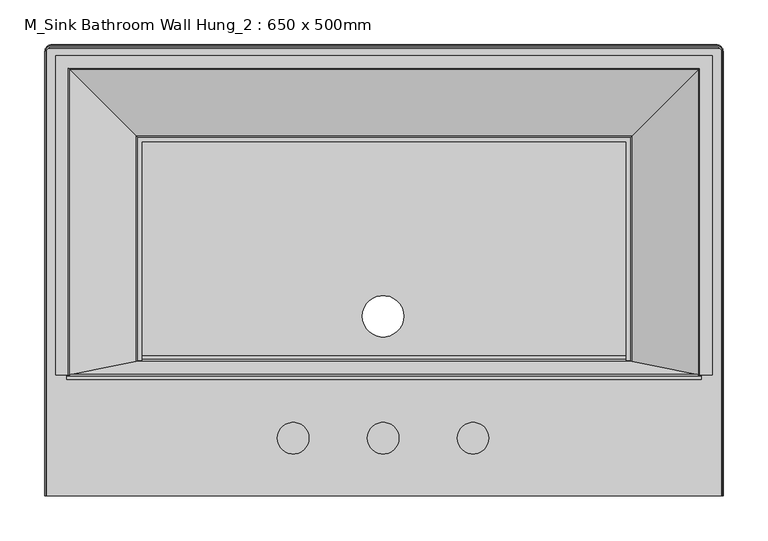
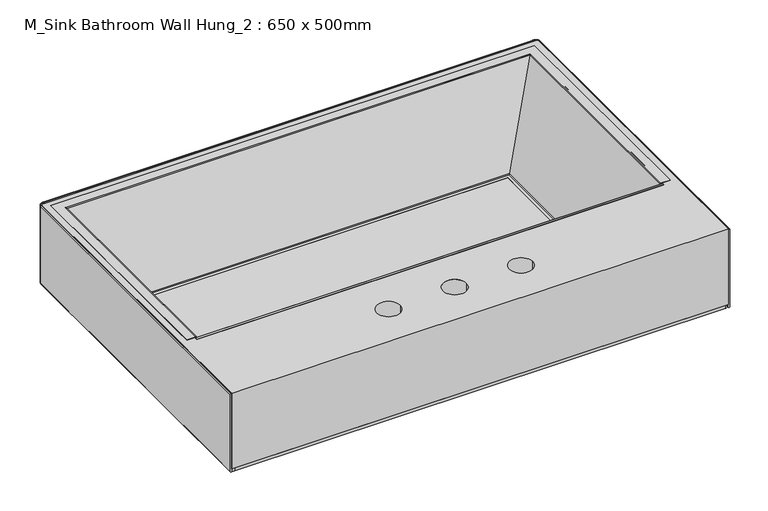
"""IFC4 building model written with IfcOpenShell, lengths in millimetres: flow terminal geometry, M_Sink Bathroom Wall Hung_2 : 650 x 500mm."""

from ifc_helpers import new_model, si_unit, point, frame, frame_2d, origin, place, context, project, spatial, polyline, circle_curve, ellipse_curve, trimmed, segment, composite_curve, outline, extrude, source, transform, mapped, element, save
from ifc_brep_helpers import plane_surface, cylinder_surface, revolved_surface, advanced_brep


def m_sink_bathroom_wall_hung_2_650_x_500mm_c8be8ad8(model_context):
    return source(origin(), model_context, "Body", "SolidModel", [
        advanced_brep(
        [(-238.3922513, 197.5, 870.0), (-238.3922513, 197.5, 865.0), (-226.1634933, 197.5, 865.0), (-151.1371736, 197.5, 744.95758), (-143.0390224, 197.5, 744.95758), (-143.0390224, 197.5, 750.0), (-147.2839473, 197.5, 750.0), (-148.9799451, 197.5, 750.9400041), (-222.8047502, 197.5, 869.0599959), (-224.5007481, 197.5, 870.0), (-238.3922513, 552.3610413, 870.0), (-238.3922513, 552.3610413, 865.0), (491.3298313, 552.3610413, 865.0), (491.3298313, 197.5, 865.0), (479.1010733, 197.5, 865.0), (479.1010733, 540.1322833, 865.0), (-226.1634933, 540.1322833, 865.0), (-151.1371736, 465.1059636, 744.95758), (404.0747536, 465.1059636, 744.95758), (404.0747536, 197.5, 744.95758), (395.9766024, 197.5, 744.95758), (395.9766024, 457.0078124, 744.95758), (-143.0390224, 457.0078124, 744.95758), (-143.0390224, 457.0078124, 750.0), (395.9766024, 457.0078124, 750.0), (395.9766024, 197.5, 750.0), (400.2215273, 197.5, 750.0), (400.2215273, 461.2527373, 750.0), (-147.2839473, 461.2527373, 750.0), (-148.9799451, 462.9487351, 750.9400041), (-222.8047502, 536.7735402, 869.0599959), (-224.5007481, 538.4695381, 870.0), (477.4383281, 538.4695381, 870.0), (477.4383281, 197.5, 870.0), (491.3298313, 197.5, 870.0), (491.3298313, 552.3610413, 870.0), (401.9175251, 462.9487351, 750.9400041), (475.7423302, 536.7735402, 869.0599959), (475.7423302, 197.5, 869.0599959), (401.9175251, 197.5, 750.9400041)],
        [
            (0, 1),
            (1, 2),
            (2, 3),
            (3, 4),
            (4, 5),
            (5, 6),
            (6, 7, circle_curve(frame((-147.2839473, 197.5, 752.0), z_axis=(0.0, 1.0, 0.0), x_axis=(-1.0, 0.0, 0.0)), 2.0)),
            (7, 8),
            (8, 9, circle_curve(frame((-224.5007481, 197.5, 868.0), z_axis=(0.0, -1.0, 0.0), x_axis=(-1.0, 0.0, 0.0)), 2.0)),
            (9, 0),
            (0, 10),
            (10, 11),
            (11, 1),
            (11, 12),
            (12, 13),
            (13, 14),
            (14, 15),
            (15, 16),
            (16, 2),
            (16, 17),
            (17, 3),
            (17, 18),
            (18, 19),
            (19, 20),
            (20, 21),
            (21, 22),
            (22, 4),
            (22, 23),
            (23, 5),
            (23, 24),
            (24, 25),
            (25, 26),
            (26, 27),
            (27, 28),
            (28, 6),
            (28, 29, ellipse_curve(frame((-147.2839473, 461.2527373, 752.0), z_axis=(0.7071067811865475, 0.7071067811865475, 0.0), x_axis=(-0.7071067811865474, 0.7071067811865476, 0.0)), 2.8284271, 2.0)),
            (29, 7),
            (29, 30),
            (30, 8),
            (30, 31, ellipse_curve(frame((-224.5007481, 538.4695381, 868.0), z_axis=(-0.7071067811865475, -0.7071067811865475, 0.0), x_axis=(0.7071067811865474, -0.7071067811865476, 0.0)), 2.8284271, 2.0)),
            (31, 9),
            (31, 32),
            (32, 33),
            (33, 34),
            (34, 35),
            (35, 10),
            (35, 12),
            (15, 18),
            (21, 24),
            (27, 36, ellipse_curve(frame((400.2215273, 461.2527373, 752.0), z_axis=(0.7071067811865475, -0.7071067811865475, 0.0), x_axis=(0.7071067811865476, 0.7071067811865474, 0.0)), 2.8284271, 2.0)),
            (36, 29),
            (36, 37),
            (37, 30),
            (37, 32, ellipse_curve(frame((477.4383281, 538.4695381, 868.0), z_axis=(-0.7071067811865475, 0.7071067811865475, 0.0), x_axis=(-0.7071067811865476, -0.7071067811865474, 0.0)), 2.8284271, 2.0)),
            (33, 38, circle_curve(frame((477.4383281, 197.5, 868.0), z_axis=(0.0, -1.0, 0.0), x_axis=(1.0, 0.0, 0.0)), 2.0)),
            (38, 39),
            (39, 26, circle_curve(frame((400.2215273, 197.5, 752.0), z_axis=(0.0, 1.0, 0.0), x_axis=(1.0, 0.0, 0.0)), 2.0)),
            (25, 20),
            (19, 14),
            (13, 34),
            (39, 36),
            (38, 37),
        ],
        [
            plane_surface(frame((-223.53121, 197.5, 750.0), z_axis=(0.0, -1.0, 0.0), x_axis=(0.0, 0.0, 1.0))),
            plane_surface(frame((-238.3922513, 197.5, 870.0), z_axis=(-1.0, 0.0, 0.0), x_axis=(0.0, 1.0, 0.0))),
            plane_surface(frame((-238.3922513, 197.5, 865.0), z_axis=(0.0, 0.0, -1.0), x_axis=(0.0, 1.0, 0.0))),
            plane_surface(frame((-226.1634933, 197.5, 865.0), z_axis=(-0.8479989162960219, 0.0, -0.5299979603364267), x_axis=(0.0, 1.0, 0.0))),
            plane_surface(frame((-151.1371736, 197.5, 744.95758), z_axis=(0.0, 0.0, -1.0), x_axis=(0.0, 1.0, 0.0))),
            plane_surface(frame((-143.0390224, 197.5, 744.95758), z_axis=(1.0, 0.0, 0.0), x_axis=(0.0, 1.0, 0.0))),
            plane_surface(frame((-143.0390224, 197.5, 750.0), z_axis=(0.0, 0.0, 1.0), x_axis=(0.0, 1.0, 0.0))),
            revolved_surface(polyline([(-149.2839473, 463.25273728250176, 752.0), (-149.2839473, 197.5, 752.0)]), (-147.2839473, 197.5, 752.0), (0.0, 1.0, 0.0)),
            plane_surface(frame((-148.9799451, 197.5, 750.9400041), z_axis=(0.8479989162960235, 0.0, 0.529997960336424), x_axis=(0.0, 1.0, 0.0))),
            cylinder_surface(frame((-224.5007481, 197.5, 868.0), z_axis=(0.0, -1.0, 0.0), x_axis=(-1.0, 0.0, 0.0)), 2.0),
            plane_surface(frame((-224.5007481, 197.5, 870.0), z_axis=(0.0, 0.0, 1.0), x_axis=(0.0, 1.0, 0.0))),
            plane_surface(frame((-238.3922513, 552.3610413, 870.0), z_axis=(0.0, 1.0, 0.0), x_axis=(1.0, 0.0, 0.0))),
            plane_surface(frame((-226.1634933, 540.1322833, 865.0), z_axis=(0.0, 0.8479989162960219, -0.5299979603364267), x_axis=(1.0, 0.0, 0.0))),
            plane_surface(frame((-143.0390224, 457.0078124, 744.95758), z_axis=(0.0, -1.0, 0.0), x_axis=(1.0, 0.0, 0.0))),
            revolved_surface(polyline([(402.2215272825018, 463.2527373, 752.0), (-149.2839472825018, 463.2527373, 752.0)]), (-223.53121, 461.2527373, 752.0), (1.0, 0.0, 0.0)),
            plane_surface(frame((-148.9799451, 462.9487351, 750.9400041), z_axis=(0.0, -0.8479989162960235, 0.529997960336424), x_axis=(1.0, 0.0, 0.0))),
            cylinder_surface(frame((-223.53121, 538.4695381, 868.0), z_axis=(-1.0, 0.0, 0.0), x_axis=(0.0, 1.0, 0.0)), 2.0),
            plane_surface(frame((476.46879, 197.5, 750.0), z_axis=(0.0, -1.0, 0.0), x_axis=(0.0, 0.0, 1.0))),
            plane_surface(frame((491.3298313, 552.3610413, 870.0), z_axis=(1.0, 0.0, 0.0), x_axis=(0.0, -1.0, 0.0))),
            plane_surface(frame((479.1010733, 540.1322833, 865.0), z_axis=(0.8479989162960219, 0.0, -0.5299979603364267), x_axis=(0.0, -1.0, 0.0))),
            plane_surface(frame((395.9766024, 457.0078124, 744.95758), z_axis=(-1.0, 0.0, 0.0), x_axis=(0.0, -1.0, 0.0))),
            revolved_surface(polyline([(402.2215273, 197.5, 752.0), (402.2215273, 463.2527372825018, 752.0)]), (400.2215273, 537.5, 752.0), (0.0, -1.0, 0.0)),
            plane_surface(frame((401.9175251, 462.9487351, 750.9400041), z_axis=(-0.8479989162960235, 0.0, 0.529997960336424), x_axis=(0.0, -1.0, 0.0))),
            cylinder_surface(frame((477.4383281, 537.5, 868.0), z_axis=(0.0, 1.0, 0.0), x_axis=(1.0, 0.0, 0.0)), 2.0),
        ],
        [
            (0, [[1, 2, 3, 4, 5, 6, 7, 8, 9, 10]]),
            (1, [[-1, 11, 12, 13]]),
            (2, [[-2, -13, 14, 15, 16, 17, 18, 19]]),
            (3, [[-3, -19, 20, 21]]),
            (4, [[-4, -21, 22, 23, 24, 25, 26, 27]]),
            (5, [[-5, -27, 28, 29]]),
            (6, [[-6, -29, 30, 31, 32, 33, 34, 35]]),
            (7, [[-7, -35, 36, 37]]),
            (8, [[-8, -37, 38, 39]]),
            (9, [[-9, -39, 40, 41]]),
            (10, [[-10, -41, 42, 43, 44, 45, 46, -11]]),
            (11, [[-12, -46, 47, -14]]),
            (12, [[-20, -18, 48, -22]]),
            (13, [[-28, -26, 49, -30]]),
            (14, [[-36, -34, 50, 51]]),
            (15, [[-38, -51, 52, 53]]),
            (16, [[-40, -53, 54, -42]]),
            (17, [[-44, 55, 56, 57, -32, 58, -24, 59, -16, 60]]),
            (18, [[-47, -45, -60, -15]]),
            (19, [[-48, -17, -59, -23]]),
            (20, [[-49, -25, -58, -31]]),
            (21, [[-50, -33, -57, 61]]),
            (22, [[-52, -61, -56, 62]]),
            (23, [[-54, -62, -55, -43]]),
        ],
    ),
        extrude(outline(composite_curve([segment(polyline([(197.6022771, 868.2507881), (212.327107, 751.7492119)]), True, "CONTINUOUS"), segment(trimmed(circle_curve(frame_2d((214.311321, 752.0)), 2.0), [point((212.327107, 751.7492119))], [point((214.311321, 750.0))], True, "CARTESIAN"), True, "CONTINUOUS"), segment(polyline([(214.311321, 750.0), (218.1855127, 750.0), (218.1855127, 744.95758), (208.1855127, 744.95758), (192.3811913, 870.0), (195.6180631, 870.0)]), True, "CONTINUOUS"), segment(trimmed(circle_curve(frame_2d((195.6180631, 868.0)), 2.0), [point((195.6180631, 870.0))], [point((197.6022771, 868.2507881))], False, "CARTESIAN"), True, "CONTINUOUS")], self_intersect=False)), frame((-226.1634933, 0.0, 0.0), z_axis=(1.0, 0.0, 0.0), x_axis=(0.0, 1.0, 0.0)), (0.0, 0.0, 1.0), 705.2645665),
        extrude(outline(composite_curve([segment(trimmed(circle_curve(frame_2d((498.46879, 557.5)), 3.0), [point((498.46879, 560.5))], [point((501.46879, 557.5))], False, "CARTESIAN"), True, "CONTINUOUS"), segment(polyline([(501.46879, 557.5), (501.46879, 62.5), (-248.53121, 62.5), (-248.53121, 557.5)]), True, "CONTINUOUS"), segment(trimmed(circle_curve(frame_2d((-245.53121, 557.5)), 3.0), [point((-248.53121, 557.5))], [point((-245.53121, 560.5))], False, "CARTESIAN"), True, "CONTINUOUS"), segment(polyline([(-245.53121, 560.5), (498.46879, 560.5)]), True, "CONTINUOUS")], self_intersect=False), holes=[composite_curve([segment(trimmed(circle_curve(frame_2d((25.51071, 126.860641)), 17.5), [point((8.01071, 126.860641))], [point((43.01071, 126.860641))], True, "CARTESIAN"), True, "CONTINUOUS"), segment(trimmed(circle_curve(frame_2d((25.51071, 126.860641)), 17.5), [point((43.01071, 126.860641))], [point((8.01071, 126.860641))], True, "CARTESIAN"), True, "CONTINUOUS")], self_intersect=False), composite_curve([segment(trimmed(circle_curve(frame_2d((125.51071, 126.860641)), 17.5), [point((108.01071, 126.860641))], [point((143.01071, 126.860641))], True, "CARTESIAN"), True, "CONTINUOUS"), segment(trimmed(circle_curve(frame_2d((125.51071, 126.860641)), 17.5), [point((143.01071, 126.860641))], [point((108.01071, 126.860641))], True, "CARTESIAN"), True, "CONTINUOUS")], self_intersect=False), composite_curve([segment(trimmed(circle_curve(frame_2d((225.51071, 126.860641)), 17.5), [point((243.01071, 126.860641))], [point((208.01071, 126.860641))], True, "CARTESIAN"), True, "CONTINUOUS"), segment(trimmed(circle_curve(frame_2d((225.51071, 126.860641)), 17.5), [point((208.01071, 126.860641))], [point((243.01071, 126.860641))], True, "CARTESIAN"), True, "CONTINUOUS")], self_intersect=False), polyline([(-226.1634933, 537.5), (-226.1634933, 192.5), (479.1010733, 192.5), (479.1010733, 537.5), (-226.1634933, 537.5)])]), frame((0.0, 0.0, 750.0), z_axis=(0.0, 0.0, 1.0), x_axis=(1.0, 0.0, 0.0)), (0.0, 0.0, 1.0), 120.0),
        advanced_brep(
        [(-249.53121, 62.5, 870.0), (-250.53121, 62.5, 869.0), (-250.53121, 62.5, 746.0), (-249.53121, 62.5, 745.0), (-248.53121, 62.5, 745.0), (-248.53121, 62.5, 870.0), (-249.53121, 557.5, 870.0), (-250.53121, 557.5, 869.0), (-250.53121, 557.5, 746.0), (-249.53121, 557.5, 745.0), (-243.53121, 563.5, 745.0), (496.46879, 563.5, 745.0), (502.46879, 557.5, 745.0), (502.46879, 62.5, 745.0), (501.46879, 62.5, 745.0), (501.46879, 557.5, 745.0), (496.46879, 562.5, 745.0), (-243.53121, 562.5, 745.0), (-248.53121, 557.5, 745.0), (-248.53121, 557.5, 870.0), (-243.53121, 562.5, 870.0), (496.46879, 562.5, 870.0), (501.46879, 557.5, 870.0), (501.46879, 62.5, 870.0), (502.46879, 62.5, 870.0), (502.46879, 557.5, 870.0), (496.46879, 563.5, 870.0), (-243.53121, 563.5, 870.0), (-243.53121, 564.5, 869.0), (-243.53121, 564.5, 746.0), (496.46879, 564.5, 869.0), (496.46879, 564.5, 746.0), (503.46879, 557.5, 869.0), (503.46879, 557.5, 746.0), (503.46879, 62.5, 746.0), (503.46879, 62.5, 869.0)],
        [
            (0, 1, circle_curve(frame((-249.53121, 62.5, 869.0), z_axis=(0.0, -1.0, 0.0), x_axis=(-1.0, 0.0, 0.0)), 1.0)),
            (1, 2),
            (2, 3, circle_curve(frame((-249.53121, 62.5, 746.0), z_axis=(0.0, -1.0, 0.0), x_axis=(-1.0, 0.0, 0.0)), 1.0)),
            (3, 4),
            (4, 5),
            (5, 0),
            (0, 6),
            (6, 7, circle_curve(frame((-249.53121, 557.5, 869.0), z_axis=(0.0, -1.0, 0.0), x_axis=(-1.0, 0.0, 0.0)), 1.0)),
            (7, 1),
            (7, 8),
            (8, 2),
            (8, 9, circle_curve(frame((-249.53121, 557.5, 746.0), z_axis=(0.0, -1.0, 0.0), x_axis=(-1.0, 0.0, 0.0)), 1.0)),
            (9, 3),
            (9, 10, circle_curve(frame((-243.53121, 557.5, 745.0), z_axis=(0.0, 0.0, -1.0), x_axis=(-1.0, 0.0, 0.0)), 6.0)),
            (10, 11),
            (11, 12, circle_curve(frame((496.46879, 557.5, 745.0), z_axis=(0.0, 0.0, -1.0), x_axis=(0.0, 1.0, 0.0)), 6.0)),
            (12, 13),
            (13, 14),
            (14, 15),
            (15, 16, circle_curve(frame((496.46879, 557.5, 745.0), z_axis=(0.0, 0.0, 1.0), x_axis=(0.0, 1.0, 0.0)), 5.0)),
            (16, 17),
            (17, 18, circle_curve(frame((-243.53121, 557.5, 745.0), z_axis=(0.0, 0.0, 1.0), x_axis=(-1.0, 0.0, 0.0)), 5.0)),
            (18, 4),
            (18, 19),
            (19, 5),
            (19, 20, circle_curve(frame((-243.53121, 557.5, 870.0), z_axis=(0.0, 0.0, -1.0), x_axis=(-1.0, 0.0, 0.0)), 5.0)),
            (20, 21),
            (21, 22, circle_curve(frame((496.46879, 557.5, 870.0), z_axis=(0.0, 0.0, -1.0), x_axis=(0.0, 1.0, 0.0)), 5.0)),
            (22, 23),
            (23, 24),
            (24, 25),
            (25, 26, circle_curve(frame((496.46879, 557.5, 870.0), z_axis=(0.0, 0.0, 1.0), x_axis=(0.0, 1.0, 0.0)), 6.0)),
            (26, 27),
            (27, 6, circle_curve(frame((-243.53121, 557.5, 870.0), z_axis=(0.0, 0.0, 1.0), x_axis=(-1.0, 0.0, 0.0)), 6.0)),
            (28, 7, circle_curve(frame((-243.53121, 557.5, 869.0), z_axis=(0.0, 0.0, 1.0), x_axis=(-1.0, 0.0, 0.0)), 7.0)),
            (27, 28, circle_curve(frame((-243.53121, 563.5, 869.0), z_axis=(-1.0, 0.0, 0.0), x_axis=(0.0, 1.0, 0.0)), 1.0)),
            (29, 8, circle_curve(frame((-243.53121, 557.5, 746.0), z_axis=(0.0, 0.0, 1.0), x_axis=(-1.0, 0.0, 0.0)), 7.0)),
            (28, 29),
            (29, 10, circle_curve(frame((-243.53121, 563.5, 746.0), z_axis=(-1.0, 0.0, 0.0), x_axis=(0.0, 1.0, 0.0)), 1.0)),
            (17, 20),
            (26, 30, circle_curve(frame((496.46879, 563.5, 869.0), z_axis=(-1.0, 0.0, 0.0), x_axis=(0.0, 1.0, 0.0)), 1.0)),
            (30, 28),
            (30, 31),
            (31, 29),
            (31, 11, circle_curve(frame((496.46879, 563.5, 746.0), z_axis=(-1.0, 0.0, 0.0), x_axis=(0.0, 1.0, 0.0)), 1.0)),
            (16, 21),
            (32, 30, circle_curve(frame((496.46879, 557.5, 869.0), z_axis=(0.0, 0.0, 1.0), x_axis=(0.0, 1.0, 0.0)), 7.0)),
            (25, 32, circle_curve(frame((502.46879, 557.5, 869.0), z_axis=(0.0, 1.0, 0.0), x_axis=(1.0, 0.0, 0.0)), 1.0)),
            (33, 31, circle_curve(frame((496.46879, 557.5, 746.0), z_axis=(0.0, 0.0, 1.0), x_axis=(0.0, 1.0, 0.0)), 7.0)),
            (32, 33),
            (33, 12, circle_curve(frame((502.46879, 557.5, 746.0), z_axis=(0.0, 1.0, 0.0), x_axis=(1.0, 0.0, 0.0)), 1.0)),
            (15, 22),
            (23, 14),
            (13, 34, circle_curve(frame((502.46879, 62.5, 746.0), z_axis=(0.0, -1.0, 0.0), x_axis=(1.0, 0.0, 0.0)), 1.0)),
            (34, 35),
            (35, 24, circle_curve(frame((502.46879, 62.5, 869.0), z_axis=(0.0, -1.0, 0.0), x_axis=(1.0, 0.0, 0.0)), 1.0)),
            (35, 32),
            (34, 33),
        ],
        [
            plane_surface(frame((-248.53121, 62.5, 750.0), z_axis=(0.0, -1.0, 0.0), x_axis=(0.0, 0.0, 1.0))),
            cylinder_surface(frame((-249.53121, 62.5, 869.0), z_axis=(0.0, -1.0, 0.0), x_axis=(-1.0, 0.0, 0.0)), 1.0),
            plane_surface(frame((-250.53121, 62.5, 869.0), z_axis=(-1.0, 0.0, 0.0), x_axis=(0.0, 1.0, 0.0))),
            cylinder_surface(frame((-249.53121, 62.5, 746.0), z_axis=(0.0, -1.0, 0.0), x_axis=(-1.0, 0.0, 0.0)), 1.0),
            plane_surface(frame((-249.53121, 62.5, 745.0), z_axis=(0.0, 0.0, -1.0), x_axis=(0.0, 1.0, 0.0))),
            plane_surface(frame((-248.53121, 62.5, 745.0), z_axis=(1.0, 0.0, 0.0), x_axis=(0.0, 1.0, 0.0))),
            plane_surface(frame((-248.53121, 62.5, 870.0), z_axis=(0.0, 0.0, 1.0), x_axis=(0.0, 1.0, 0.0))),
            revolved_surface(trimmed(ellipse_curve(frame((-249.53121, 557.5, 869.0), z_axis=(0.0, -1.0, 0.0), x_axis=(-1.0, 0.0, 0.0)), 1.0, 1.0), [point((-249.53121, 557.5, 870.0))], [point((-250.53121, 557.5, 869.0))], True, "CARTESIAN"), (-243.53121, 557.5, 750.0), (0.0, 0.0, -1.0)),
            cylinder_surface(frame((-243.53121, 557.5, 750.0), z_axis=(0.0, 0.0, -1.0), x_axis=(-1.0, 0.0, 0.0)), 7.0),
            revolved_surface(trimmed(ellipse_curve(frame((-249.53121, 557.5, 746.0), z_axis=(0.0, -1.0, 0.0), x_axis=(-1.0, 0.0, 0.0)), 1.0, 1.0), [point((-250.53121, 557.5, 746.0))], [point((-249.53121, 557.5, 745.0))], True, "CARTESIAN"), (-243.53121, 557.5, 750.0), (0.0, 0.0, -1.0)),
            revolved_surface(polyline([(-248.53121, 557.5, 745.0), (-248.53121, 557.5, 870.0)]), (-243.53121, 557.5, 750.0), (0.0, 0.0, -1.0)),
            cylinder_surface(frame((-243.53121, 563.5, 869.0), z_axis=(-1.0, 0.0, 0.0), x_axis=(0.0, 1.0, 0.0)), 1.0),
            plane_surface(frame((-243.53121, 564.5, 869.0), z_axis=(0.0, 1.0, 0.0), x_axis=(1.0, 0.0, 0.0))),
            cylinder_surface(frame((-243.53121, 563.5, 746.0), z_axis=(-1.0, 0.0, 0.0), x_axis=(0.0, 1.0, 0.0)), 1.0),
            plane_surface(frame((-243.53121, 562.5, 745.0), z_axis=(0.0, -1.0, 0.0), x_axis=(1.0, 0.0, 0.0))),
            revolved_surface(trimmed(ellipse_curve(frame((496.46879, 563.5, 869.0), z_axis=(-1.0, 0.0, 0.0), x_axis=(0.0, 1.0, 0.0)), 1.0, 1.0), [point((496.46879, 563.5, 870.0))], [point((496.46879, 564.5, 869.0))], True, "CARTESIAN"), (496.46879, 557.5, 750.0), (0.0, 0.0, -1.0)),
            cylinder_surface(frame((496.46879, 557.5, 750.0), z_axis=(0.0, 0.0, -1.0), x_axis=(0.0, 1.0, 0.0)), 7.0),
            revolved_surface(trimmed(ellipse_curve(frame((496.46879, 563.5, 746.0), z_axis=(-1.0, 0.0, 0.0), x_axis=(0.0, 1.0, 0.0)), 1.0, 1.0), [point((496.46879, 564.5, 746.0))], [point((496.46879, 563.5, 745.0))], True, "CARTESIAN"), (496.46879, 557.5, 750.0), (0.0, 0.0, -1.0)),
            revolved_surface(polyline([(496.46879, 562.5, 745.0), (496.46879, 562.5, 870.0)]), (496.46879, 557.5, 750.0), (0.0, 0.0, -1.0)),
            plane_surface(frame((501.46879, 62.5, 750.0), z_axis=(0.0, -1.0, 0.0), x_axis=(0.0, 0.0, 1.0))),
            cylinder_surface(frame((502.46879, 557.5, 869.0), z_axis=(0.0, 1.0, 0.0), x_axis=(1.0, 0.0, 0.0)), 1.0),
            plane_surface(frame((503.46879, 557.5, 869.0), z_axis=(1.0, 0.0, 0.0), x_axis=(0.0, -1.0, 0.0))),
            cylinder_surface(frame((502.46879, 557.5, 746.0), z_axis=(0.0, 1.0, 0.0), x_axis=(1.0, 0.0, 0.0)), 1.0),
            plane_surface(frame((501.46879, 557.5, 745.0), z_axis=(-1.0, 0.0, 0.0), x_axis=(0.0, -1.0, 0.0))),
        ],
        [
            (0, [[1, 2, 3, 4, 5, 6]]),
            (1, [[-1, 7, 8, 9]]),
            (2, [[-2, -9, 10, 11]]),
            (3, [[-3, -11, 12, 13]]),
            (4, [[-4, -13, 14, 15, 16, 17, 18, 19, 20, 21, 22, 23]]),
            (5, [[-5, -23, 24, 25]]),
            (6, [[-6, -25, 26, 27, 28, 29, 30, 31, 32, 33, 34, -7]]),
            (7, [[35, -8, -34, 36]]),
            (8, [[37, -10, -35, 38]]),
            (9, [[-14, -12, -37, 39]]),
            (10, [[-26, -24, -22, 40]]),
            (11, [[-36, -33, 41, 42]]),
            (12, [[-38, -42, 43, 44]]),
            (13, [[-39, -44, 45, -15]]),
            (14, [[-40, -21, 46, -27]]),
            (15, [[47, -41, -32, 48]]),
            (16, [[49, -43, -47, 50]]),
            (17, [[-16, -45, -49, 51]]),
            (18, [[-28, -46, -20, 52]]),
            (19, [[-30, 53, -18, 54, 55, 56]]),
            (20, [[-48, -31, -56, 57]]),
            (21, [[-50, -57, -55, 58]]),
            (22, [[-51, -58, -54, -17]]),
            (23, [[-52, -19, -53, -29]]),
        ],
    ),
        extrude(outline(composite_curve([segment(trimmed(circle_curve(frame_2d((-243.53121, 557.5)), 5.0), [point((-248.53121, 557.5))], [point((-243.53121, 562.5))], False, "CARTESIAN"), True, "CONTINUOUS"), segment(polyline([(-243.53121, 562.5), (496.46879, 562.5)]), True, "CONTINUOUS"), segment(trimmed(circle_curve(frame_2d((496.46879, 557.5)), 5.0), [point((496.46879, 562.5))], [point((501.46879, 557.5))], False, "CARTESIAN"), True, "CONTINUOUS"), segment(polyline([(501.46879, 557.5), (501.46879, 67.5)]), True, "CONTINUOUS"), segment(trimmed(circle_curve(frame_2d((496.46879, 67.5)), 5.0), [point((501.46879, 67.5))], [point((496.46879, 62.5))], False, "CARTESIAN"), True, "CONTINUOUS"), segment(polyline([(496.46879, 62.5), (-243.53121, 62.5)]), True, "CONTINUOUS"), segment(trimmed(circle_curve(frame_2d((-243.53121, 67.5)), 5.0), [point((-243.53121, 62.5))], [point((-248.53121, 67.5))], False, "CARTESIAN"), True, "CONTINUOUS"), segment(polyline([(-248.53121, 67.5), (-248.53121, 557.5)]), True, "CONTINUOUS")], self_intersect=False), holes=[composite_curve([segment(trimmed(circle_curve(frame_2d((125.5105, 262.5)), 23.0), [point((148.5105, 262.5))], [point((102.5105, 262.5))], True, "CARTESIAN"), True, "CONTINUOUS"), segment(trimmed(circle_curve(frame_2d((125.5105, 262.5)), 23.0), [point((102.5105, 262.5))], [point((148.5105, 262.5))], True, "CARTESIAN"), True, "CONTINUOUS")], self_intersect=False)]), frame((0.0, 0.0, 744.95758), z_axis=(0.0, 0.0, 1.0), x_axis=(1.0, 0.0, 0.0)), (0.0, 0.0, 1.0), 5.04242),
    ])


if __name__ == "__main__":
    model = new_model("IFC4")
    model_context = context("Model", 3, world=origin())
    ifc_project = project(units=[si_unit("LENGTHUNIT", "METRE", prefix="MILLI")], contexts=[model_context])
    site = spatial("IfcSite", under=ifc_project)
    building = spatial("IfcBuilding", under=site)
    placement = place(None, origin())
    m_sink_bathroom_wall_hung_2_650_x_500mm_shape = m_sink_bathroom_wall_hung_2_650_x_500mm_c8be8ad8(model_context)
    element("IfcFlowTerminal", 1, ObjectType="M_Sink Bathroom Wall Hung_2 : 650 x 500mm", at=placement, inside=building, context=model_context, shape_type="MappedRepresentation", body=[
        mapped(m_sink_bathroom_wall_hung_2_650_x_500mm_shape, transform((0.0, 0.0, 0.0), x_axis=(1.0, 0.0, 0.0), y_axis=(0.0, 1.0, 0.0), z_axis=(0.0, 0.0, 1.0))),
    ])
    save(model, "model.ifc")
